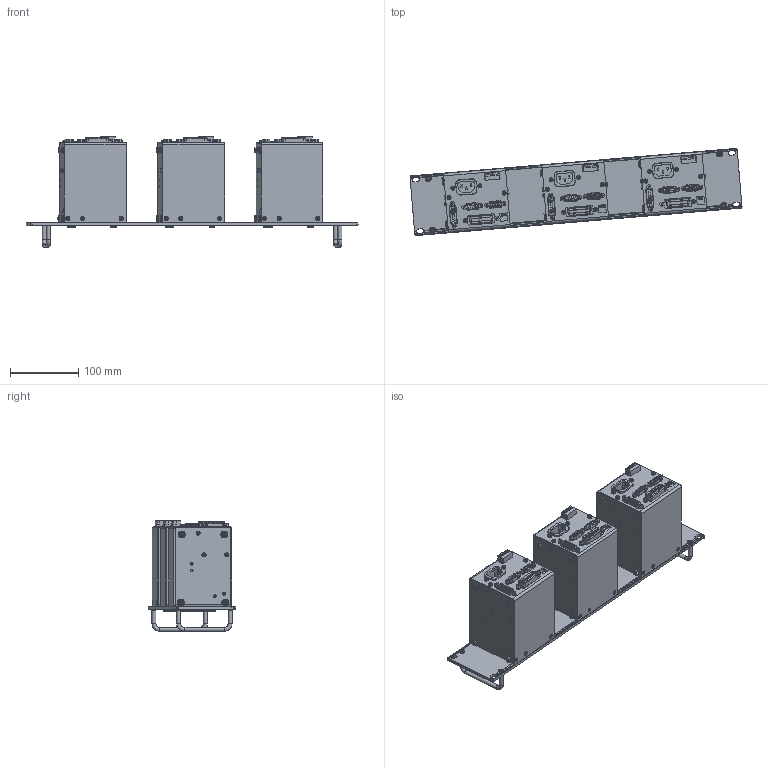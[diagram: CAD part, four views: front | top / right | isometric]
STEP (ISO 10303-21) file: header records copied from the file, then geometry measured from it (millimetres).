
FILE_DESCRIPTION(/* description */ (''),/* implementation_level */ '2;1');
FILE_NAME(/* name */ 'A:\Data\PSC488\presentation\RA19-3PSC488.stp',/* time_stamp */ '2021-01-04T15:53:27+01:00',/* author */ ('Delta'),/* organization */ (''),/* preprocessor_version */ 'ST-DEVELOPER v17.2',/* originating_system */ 'Autodesk Inventor 2019',/* authorisation */ '');
FILE_SCHEMA (('AUTOMOTIVE_DESIGN { 1 0 10303 214 3 1 1 }'));
Products named in the file (1): AssemblyRA19-3psc_Shrinkwrap_1
Bounding box: 487.88 x 128.06 x 162.75 mm (x, y, z)
Volume: 2925623.6 mm3; surface area: 271840.6 mm2
Topology: 1 solids, 1 shells, 4389 faces, 10440 edges, 6438 vertices
Faces by surface type: plane 3046, cylinder 693, cone 462, torus 149, bspline 24, sphere 15
Full cylindrical faces by diameter (mm): 0.9 x27, 1 x45, 1.1 x27, 2.156 x24, 2.459 x12, 2.75 x24, 2.9 x15, 3.2 x39, 3.5 x15, 4 x8, 4.14 x12, 4.2 x4, 4.3 x12, 4.5 x4, 5.5 x15, 5.8 x3, 6 x93, 7 x3, 10 x12
Entity records: 128903 total; most frequent: CARTESIAN_POINT 23635, DIRECTION 21206, ORIENTED_EDGE 20698, EDGE_CURVE 10349, AXIS2_PLACEMENT_3D 7377, LINE 6452, VECTOR 6452, VERTEX_POINT 6438
